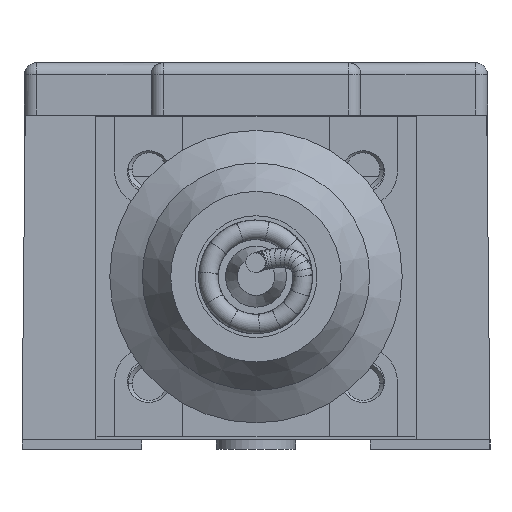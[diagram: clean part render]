
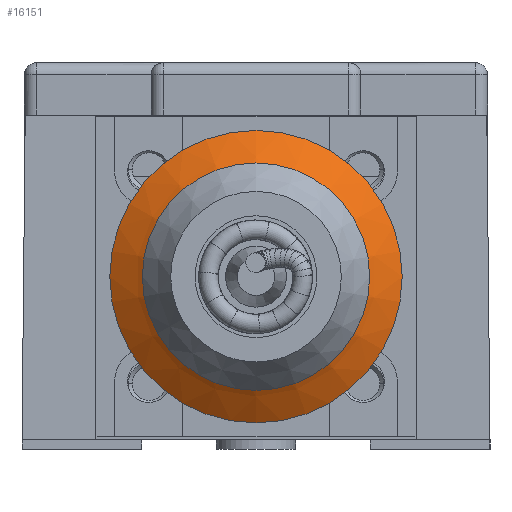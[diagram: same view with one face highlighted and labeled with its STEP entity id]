
A CAD part, left-side view. The second image highlights one B-rep face of the part: STEP entity #16151.
In plain terms, the highlighted conical face has half-angle 55.305 degrees and reference radius 9 mm.
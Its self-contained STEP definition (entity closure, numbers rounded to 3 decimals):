
#16131 = EDGE_CURVE('',#16132,#16132,#16134,.T.);
#16132 = VERTEX_POINT('',#16133);
#16133 = CARTESIAN_POINT('',(60.393,-4.628,222.715));
#16134 = CIRCLE('',#16135,9.);
#16135 = AXIS2_PLACEMENT_3D('',#16136,#16137,#16138);
#16136 = CARTESIAN_POINT('',(60.393,-4.628,231.715));
#16137 = DIRECTION('',(1.,0.,0.));
#16138 = DIRECTION('',(0.,0.,-1.));
#16151 = ADVANCED_FACE('',(#16152),#16170,.T.);
#16152 = FACE_BOUND('',#16153,.T.);
#16153 = EDGE_LOOP('',(#16154,#16163,#16168,#16169));
#16154 = ORIENTED_EDGE('',*,*,#16155,.T.);
#16155 = EDGE_CURVE('',#16156,#16156,#16158,.T.);
#16156 = VERTEX_POINT('',#16157);
#16157 = CARTESIAN_POINT('',(58.143,-4.628,225.965));
#16158 = CIRCLE('',#16159,5.75);
#16159 = AXIS2_PLACEMENT_3D('',#16160,#16161,#16162);
#16160 = CARTESIAN_POINT('',(58.143,-4.628,231.715));
#16161 = DIRECTION('',(1.,0.,0.));
#16162 = DIRECTION('',(0.,0.,-1.));
#16163 = ORIENTED_EDGE('',*,*,#16164,.T.);
#16164 = EDGE_CURVE('',#16156,#16132,#16165,.T.);
#16165 = B_SPLINE_CURVE_WITH_KNOTS('',1,(#16166,#16167),.UNSPECIFIED.,
  .F.,.F.,(2,2),(-3.953,0.),.PIECEWISE_BEZIER_KNOTS.);
#16166 = CARTESIAN_POINT('',(58.143,-4.628,225.965));
#16167 = CARTESIAN_POINT('',(60.393,-4.628,222.715));
#16168 = ORIENTED_EDGE('',*,*,#16131,.F.);
#16169 = ORIENTED_EDGE('',*,*,#16164,.F.);
#16170 = CONICAL_SURFACE('',#16171,9.,0.965);
#16171 = AXIS2_PLACEMENT_3D('',#16172,#16173,#16174);
#16172 = CARTESIAN_POINT('',(60.393,-4.628,231.715));
#16173 = DIRECTION('',(1.,0.,0.));
#16174 = DIRECTION('',(0.,0.,-1.));
